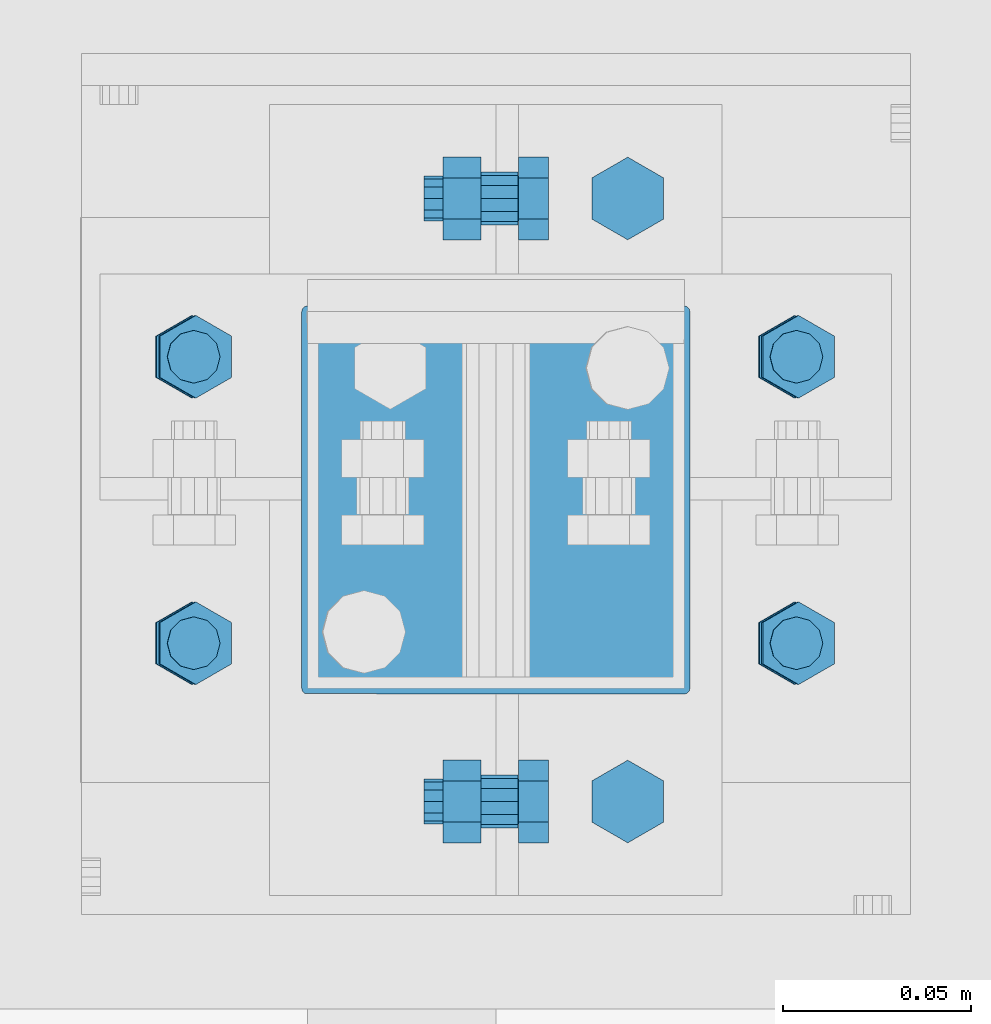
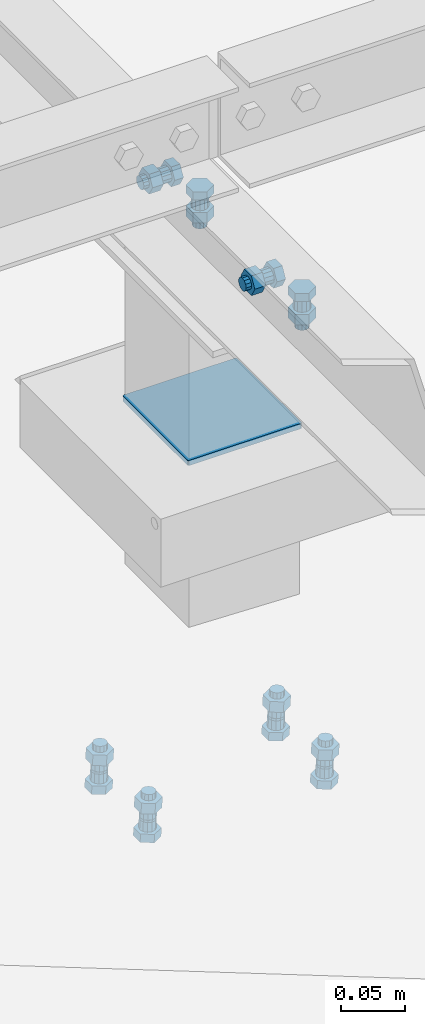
# One storey, part 334 of 3134: 5 mechanical fasteners, 4 elements without a shape of their own.
"""IFC2X3 building model written with IfcOpenShell, lengths in millimetres."""

from ifc_helpers import new_model, si_unit, frame, origin_with_axes, place, context, subcontext, project, spatial, faceted_brep, source, transform, mapped, material, type_object, element, aggregate, save


model = new_model("IFC2X3")

# Units and contexts
model_context = context("Model", 3, precision=1e-05, world=origin_with_axes())
body_context = subcontext(model_context, "Body", "Model", "MODEL_VIEW")
ifc_project = project(units=[si_unit("LENGTHUNIT", "METRE", prefix="MILLI"), si_unit("AREAUNIT", "SQUARE_METRE"), si_unit("VOLUMEUNIT", "CUBIC_METRE"), si_unit("MASSUNIT", "GRAM", prefix="KILO"), si_unit("TIMEUNIT", "SECOND"), si_unit("PLANEANGLEUNIT", "RADIAN"), si_unit("SOLIDANGLEUNIT", "STERADIAN"), si_unit("THERMODYNAMICTEMPERATUREUNIT", "DEGREE_CELSIUS"), si_unit("LUMINOUSINTENSITYUNIT", "LUMEN")], contexts=[model_context])

# Site, building, storey
site_placement = place(None, origin_with_axes())
site = spatial("IfcSite", under=ifc_project, at=site_placement, CompositionType="ELEMENT")
building_placement = place(site_placement, origin_with_axes())
building = spatial("IfcBuilding", under=site, at=building_placement, Name="Undefined", CompositionType="ELEMENT")
storey_placement = place(building_placement, origin_with_axes())
storey = spatial("IfcBuildingStorey", under=building, at=storey_placement, Name="Undefined", CompositionType="ELEMENT", Elevation=0.0)

# Assembly, mechanical fastener
assembly_1_placement = place(storey_placement, origin_with_axes())
assembly_1 = element("IfcElementAssembly", 1, at=assembly_1_placement, inside=storey, AssemblyPlace="NOTDEFINED", PredefinedType="RIGID_FRAME")
ifc_material_1 = material(Name="8.8")
mechanical_fastener_type = type_object("IfcMechanicalFastenerType", Name="Bolt assembly")
shared_shape_1 = source(origin_with_axes(), body_context, "Body", "Brep", [
    faceted_brep([(10.9696551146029, -14.0, 0.0), (5.48482755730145, -14.0, 9.5), (-5.48482755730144, -14.0, 9.5), (-10.9696551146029, -14.0, 1.34339530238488e-15), (-5.48482755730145, -14.0, -9.5), (5.48482755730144, -14.0, -9.50000000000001), (5.48482755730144, -6.0, -9.50000000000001), (-5.48482755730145, -6.0, -9.5), (-10.9696551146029, -6.0, 1.34339530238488e-15), (-5.48482755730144, -6.0, 9.5), (5.48482755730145, -6.0, 9.5), (10.9696551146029, -6.0, 0.0), (6.0, -6.0, 0.0), (5.19615242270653, -6.0, 3.00000000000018), (2.99999999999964, -6.0, 5.19615242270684), (-6.21801588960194e-13, -6.0, 6.0), (-3.00000000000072, -6.0, 5.19615242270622), (-5.19615242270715, -6.0, 2.9999999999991), (-6.0, -6.0, -1.24360317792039e-12), (-5.19615242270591, -6.0, -3.00000000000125), (-2.99999999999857, -6.0, -5.19615242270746), (1.85874342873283e-12, -6.0, -6.0), (3.00000000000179, -6.0, -5.1961524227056), (5.19615242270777, -6.0, -2.99999999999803), (5.19615242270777, 24.0, -2.99999999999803), (3.00000000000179, 24.0, -5.1961524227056), (1.85874342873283e-12, 24.0, -6.0), (-2.99999999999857, 24.0, -5.19615242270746), (-5.19615242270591, 24.0, -3.00000000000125), (-6.0, 24.0, -1.24360317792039e-12), (-5.19615242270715, 24.0, 2.9999999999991), (-3.00000000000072, 24.0, 5.19615242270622), (-6.21801588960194e-13, 24.0, 6.0), (2.99999999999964, 24.0, 5.19615242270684), (5.19615242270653, 24.0, 3.00000000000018), (6.0, 24.0, 0.0), (10.9696551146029, 6.00000000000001, 0.0), (5.48482755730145, 6.00000000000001, 9.5), (-5.48482755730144, 6.00000000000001, 9.5), (-10.9696551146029, 6.00000000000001, 1.34339530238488e-15), (-5.48482755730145, 6.00000000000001, -9.5), (5.48482755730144, 6.00000000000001, -9.50000000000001), (5.48482755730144, 16.0, -9.50000000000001), (-5.48482755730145, 16.0, -9.5), (-10.9696551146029, 16.0, 1.34339530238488e-15), (-5.48482755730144, 16.0, 9.5), (5.48482755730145, 16.0, 9.5), (10.9696551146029, 16.0, 0.0)], [[[0, 1, 2, 3, 4, 5]], [[6, 7, 8, 9, 10, 11]], [[0, 11, 10, 1]], [[1, 10, 9, 2]], [[2, 9, 8, 3]], [[3, 8, 7, 4]], [[4, 7, 6, 5]], [[5, 6, 11, 0]], [[12, 13, 14, 15, 16, 17, 18, 19, 20, 21, 22, 23]], [[24, 25, 26, 27, 28, 29, 30, 31, 32, 33, 34, 35]], [[12, 35, 34, 13]], [[13, 34, 33, 14]], [[14, 33, 32, 15]], [[15, 32, 31, 16]], [[16, 31, 30, 17]], [[17, 30, 29, 18]], [[18, 29, 28, 19]], [[19, 28, 27, 20]], [[20, 27, 26, 21]], [[21, 26, 25, 22]], [[22, 25, 24, 23]], [[23, 24, 35, 12]], [[36, 37, 38, 39, 40, 41]], [[42, 43, 44, 45, 46, 47]], [[36, 47, 46, 37]], [[37, 46, 45, 38]], [[38, 45, 44, 39]], [[39, 44, 43, 40]], [[40, 43, 42, 41]], [[41, 42, 47, 36]]]),
    faceted_brep([(7.0, -5.9, 0.0), (6.06217782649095, -5.9, 3.50000000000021), (3.49999999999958, -5.9, 6.06217782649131), (-7.25435187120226e-13, -5.9, 7.0), (-3.50000000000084, -5.9, 6.06217782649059), (-6.06217782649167, -5.9, 3.49999999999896), (-7.0, -5.9, -1.45087037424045e-12), (-6.06217782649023, -5.9, -3.50000000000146), (-3.49999999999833, -5.9, -6.06217782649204), (2.1685340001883e-12, -5.9, -7.0), (3.50000000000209, -5.9, -6.06217782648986), (6.0621778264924, -5.9, -3.4999999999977), (6.0621778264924, 0.0999999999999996, -3.4999999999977), (3.50000000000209, 0.0999999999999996, -6.06217782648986), (2.1685340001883e-12, 0.0999999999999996, -7.0), (-3.49999999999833, 0.0999999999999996, -6.06217782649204), (-6.06217782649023, 0.0999999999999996, -3.50000000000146), (-7.0, 0.0999999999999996, -1.45087037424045e-12), (-6.06217782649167, 0.0999999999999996, 3.49999999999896), (-3.50000000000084, 0.0999999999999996, 6.06217782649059), (-7.25435187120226e-13, 0.0999999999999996, 7.0), (3.49999999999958, 0.0999999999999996, 6.06217782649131), (6.06217782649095, 0.0999999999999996, 3.50000000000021), (7.0, 0.0999999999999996, 0.0), (7.0, -0.1, 0.0), (6.06217782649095, -0.1, 3.50000000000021), (3.49999999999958, -0.1, 6.06217782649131), (-7.25435187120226e-13, -0.1, 7.0), (-3.50000000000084, -0.1, 6.06217782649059), (-6.06217782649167, -0.1, 3.49999999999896), (-7.0, -0.1, -1.45087037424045e-12), (-6.06217782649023, -0.1, -3.50000000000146), (-3.49999999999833, -0.1, -6.06217782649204), (2.1685340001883e-12, -0.1, -7.0), (3.50000000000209, -0.1, -6.06217782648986), (6.0621778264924, -0.1, -3.4999999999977), (6.0621778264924, 6.00000000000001, -3.4999999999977), (3.50000000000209, 6.00000000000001, -6.06217782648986), (2.1685340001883e-12, 6.00000000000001, -7.0), (-3.49999999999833, 6.00000000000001, -6.06217782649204), (-6.06217782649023, 6.00000000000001, -3.50000000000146), (-7.0, 6.00000000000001, -1.45087037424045e-12), (-6.06217782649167, 6.00000000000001, 3.49999999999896), (-3.50000000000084, 6.00000000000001, 6.06217782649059), (-7.25435187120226e-13, 6.00000000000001, 7.0), (3.49999999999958, 6.00000000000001, 6.06217782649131), (6.06217782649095, 6.00000000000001, 3.50000000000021), (7.0, 6.00000000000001, 0.0)], [[[0, 1, 2, 3, 4, 5, 6, 7, 8, 9, 10, 11]], [[12, 13, 14, 15, 16, 17, 18, 19, 20, 21, 22, 23]], [[0, 23, 22, 1]], [[1, 22, 21, 2]], [[2, 21, 20, 3]], [[3, 20, 19, 4]], [[4, 19, 18, 5]], [[5, 18, 17, 6]], [[6, 17, 16, 7]], [[7, 16, 15, 8]], [[8, 15, 14, 9]], [[9, 14, 13, 10]], [[10, 13, 12, 11]], [[11, 12, 23, 0]], [[24, 25, 26, 27, 28, 29, 30, 31, 32, 33, 34, 35]], [[36, 37, 38, 39, 40, 41, 42, 43, 44, 45, 46, 47]], [[24, 47, 46, 25]], [[25, 46, 45, 26]], [[26, 45, 44, 27]], [[27, 44, 43, 28]], [[28, 43, 42, 29]], [[29, 42, 41, 30]], [[30, 41, 40, 31]], [[31, 40, 39, 32]], [[32, 39, 38, 33]], [[33, 38, 37, 34]], [[34, 37, 36, 35]], [[35, 36, 47, 24]]]),
])
mechanical_fastener_1_placement = place(assembly_1_placement, frame((73110.0, 12290.0, 5750.0), z_axis=(-1.0, 0.0, 0.0), x_axis=(0.0, 1.0, 0.0)))
mechanical_fastener_1 = element("IfcMechanicalFastener", 2, at=mechanical_fastener_1_placement, type_object=mechanical_fastener_type, material=ifc_material_1, Name="Bolt assembly", NominalDiameter=12.0, NominalLength=30.0, context=body_context, shape_type="MappedRepresentation", body=[
    mapped(shared_shape_1, transform((0.0, 0.0, 0.0))),
    mapped(shared_shape_1, transform((160.0, 0.0, 0.0))),
])

assembly_2_placement = place(storey_placement, origin_with_axes())
assembly_2 = element("IfcElementAssembly", 3, at=assembly_2_placement, inside=storey, AssemblyPlace="NOTDEFINED", PredefinedType="RIGID_FRAME")
shared_shape_2 = source(origin_with_axes(), body_context, "Body", "Brep", [
    faceted_brep([(10.9696551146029, -14.0, 0.0), (5.48482755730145, -14.0, 9.5), (-5.48482755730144, -14.0, 9.5), (-10.9696551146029, -14.0, 1.34339530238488e-15), (-5.48482755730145, -14.0, -9.5), (5.48482755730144, -14.0, -9.50000000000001), (5.48482755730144, -6.0, -9.50000000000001), (-5.48482755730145, -6.0, -9.5), (-10.9696551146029, -6.0, 1.34339530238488e-15), (-5.48482755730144, -6.0, 9.5), (5.48482755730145, -6.0, 9.5), (10.9696551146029, -6.0, 0.0), (6.0, -6.0, 0.0), (5.19615242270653, -6.0, 3.00000000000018), (2.99999999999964, -6.0, 5.19615242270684), (-6.21801588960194e-13, -6.0, 6.0), (-3.00000000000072, -6.0, 5.19615242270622), (-5.19615242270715, -6.0, 2.9999999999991), (-6.0, -6.0, -1.24360317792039e-12), (-5.19615242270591, -6.0, -3.00000000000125), (-2.99999999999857, -6.0, -5.19615242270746), (1.85874342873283e-12, -6.0, -6.0), (3.00000000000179, -6.0, -5.1961524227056), (5.19615242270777, -6.0, -2.99999999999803), (5.19615242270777, 19.0, -2.99999999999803), (3.00000000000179, 19.0, -5.1961524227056), (1.85874342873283e-12, 19.0, -6.0), (-2.99999999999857, 19.0, -5.19615242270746), (-5.19615242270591, 19.0, -3.00000000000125), (-6.0, 19.0, -1.24360317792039e-12), (-5.19615242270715, 19.0, 2.9999999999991), (-3.00000000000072, 19.0, 5.19615242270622), (-6.21801588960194e-13, 19.0, 6.0), (2.99999999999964, 19.0, 5.19615242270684), (5.19615242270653, 19.0, 3.00000000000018), (6.0, 19.0, 0.0), (10.9696551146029, 4.00000000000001, 0.0), (5.48482755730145, 4.00000000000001, 9.5), (-5.48482755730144, 4.00000000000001, 9.5), (-10.9696551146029, 4.00000000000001, 1.34339530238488e-15), (-5.48482755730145, 4.00000000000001, -9.5), (5.48482755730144, 4.00000000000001, -9.50000000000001), (5.48482755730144, 14.0, -9.50000000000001), (-5.48482755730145, 14.0, -9.5), (-10.9696551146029, 14.0, 1.34339530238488e-15), (-5.48482755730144, 14.0, 9.5), (5.48482755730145, 14.0, 9.5), (10.9696551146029, 14.0, 0.0)], [[[0, 1, 2, 3, 4, 5]], [[6, 7, 8, 9, 10, 11]], [[0, 11, 10, 1]], [[1, 10, 9, 2]], [[2, 9, 8, 3]], [[3, 8, 7, 4]], [[4, 7, 6, 5]], [[5, 6, 11, 0]], [[12, 13, 14, 15, 16, 17, 18, 19, 20, 21, 22, 23]], [[24, 25, 26, 27, 28, 29, 30, 31, 32, 33, 34, 35]], [[12, 35, 34, 13]], [[13, 34, 33, 14]], [[14, 33, 32, 15]], [[15, 32, 31, 16]], [[16, 31, 30, 17]], [[17, 30, 29, 18]], [[18, 29, 28, 19]], [[19, 28, 27, 20]], [[20, 27, 26, 21]], [[21, 26, 25, 22]], [[22, 25, 24, 23]], [[23, 24, 35, 12]], [[36, 37, 38, 39, 40, 41]], [[42, 43, 44, 45, 46, 47]], [[36, 47, 46, 37]], [[37, 46, 45, 38]], [[38, 45, 44, 39]], [[39, 44, 43, 40]], [[40, 43, 42, 41]], [[41, 42, 47, 36]]]),
    faceted_brep([(7.0, -0.1, 0.0), (6.06217782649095, -0.1, 3.50000000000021), (3.49999999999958, -0.1, 6.06217782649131), (-7.25435187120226e-13, -0.1, 7.0), (-3.50000000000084, -0.1, 6.06217782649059), (-6.06217782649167, -0.1, 3.49999999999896), (-7.0, -0.1, -1.45087037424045e-12), (-6.06217782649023, -0.1, -3.50000000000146), (-3.49999999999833, -0.1, -6.06217782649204), (2.1685340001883e-12, -0.1, -7.0), (3.50000000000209, -0.1, -6.06217782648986), (6.0621778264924, -0.1, -3.4999999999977), (6.0621778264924, 4.00000000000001, -3.4999999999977), (3.50000000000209, 4.00000000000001, -6.06217782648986), (2.1685340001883e-12, 4.00000000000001, -7.0), (-3.49999999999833, 4.00000000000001, -6.06217782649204), (-6.06217782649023, 4.00000000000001, -3.50000000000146), (-7.0, 4.00000000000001, -1.45087037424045e-12), (-6.06217782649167, 4.00000000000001, 3.49999999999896), (-3.50000000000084, 4.00000000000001, 6.06217782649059), (-7.25435187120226e-13, 4.00000000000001, 7.0), (3.49999999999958, 4.00000000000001, 6.06217782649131), (6.06217782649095, 4.00000000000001, 3.50000000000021), (7.0, 4.00000000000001, 0.0), (7.0, -5.9, 0.0), (6.06217782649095, -5.9, 3.50000000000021), (3.49999999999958, -5.9, 6.06217782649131), (-7.25435187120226e-13, -5.9, 7.0), (-3.50000000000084, -5.9, 6.06217782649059), (-6.06217782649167, -5.9, 3.49999999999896), (-7.0, -5.9, -1.45087037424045e-12), (-6.06217782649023, -5.9, -3.50000000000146), (-3.49999999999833, -5.9, -6.06217782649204), (2.1685340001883e-12, -5.9, -7.0), (3.50000000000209, -5.9, -6.06217782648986), (6.0621778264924, -5.9, -3.4999999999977), (6.0621778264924, 0.0999999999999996, -3.4999999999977), (3.50000000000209, 0.0999999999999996, -6.06217782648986), (2.1685340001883e-12, 0.0999999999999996, -7.0), (-3.49999999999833, 0.0999999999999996, -6.06217782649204), (-6.06217782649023, 0.0999999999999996, -3.50000000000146), (-7.0, 0.0999999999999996, -1.45087037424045e-12), (-6.06217782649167, 0.0999999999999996, 3.49999999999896), (-3.50000000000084, 0.0999999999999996, 6.06217782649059), (-7.25435187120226e-13, 0.0999999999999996, 7.0), (3.49999999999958, 0.0999999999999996, 6.06217782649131), (6.06217782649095, 0.0999999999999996, 3.50000000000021), (7.0, 0.0999999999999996, 0.0)], [[[0, 1, 2, 3, 4, 5, 6, 7, 8, 9, 10, 11]], [[12, 13, 14, 15, 16, 17, 18, 19, 20, 21, 22, 23]], [[0, 23, 22, 1]], [[1, 22, 21, 2]], [[2, 21, 20, 3]], [[3, 20, 19, 4]], [[4, 19, 18, 5]], [[5, 18, 17, 6]], [[6, 17, 16, 7]], [[7, 16, 15, 8]], [[8, 15, 14, 9]], [[9, 14, 13, 10]], [[10, 13, 12, 11]], [[11, 12, 23, 0]], [[24, 25, 26, 27, 28, 29, 30, 31, 32, 33, 34, 35]], [[36, 37, 38, 39, 40, 41, 42, 43, 44, 45, 46, 47]], [[24, 47, 46, 25]], [[25, 46, 45, 26]], [[26, 45, 44, 27]], [[27, 44, 43, 28]], [[28, 43, 42, 29]], [[29, 42, 41, 30]], [[30, 41, 40, 31]], [[31, 40, 39, 32]], [[32, 39, 38, 33]], [[33, 38, 37, 34]], [[34, 37, 36, 35]], [[35, 36, 47, 24]]]),
])
mechanical_fastener_2_placement = place(assembly_2_placement, frame((73075.0, 12290.0, 5785.0), z_axis=(0.0, 0.0, 1.0), x_axis=(0.0, 1.0, 0.0)))
mechanical_fastener_2 = element("IfcMechanicalFastener", 4, at=mechanical_fastener_2_placement, type_object=mechanical_fastener_type, material=ifc_material_1, Name="Bolt assembly", NominalDiameter=12.0, NominalLength=25.0, context=body_context, shape_type="MappedRepresentation", body=[
    mapped(shared_shape_2, transform((0.0, 0.0, 0.0))),
    mapped(shared_shape_2, transform((160.0, 0.0, 0.0))),
])
aggregate(assembly_2, [mechanical_fastener_2])

assembly_3_placement = place(storey_placement, origin_with_axes())
assembly_3 = element("IfcElementAssembly", 5, at=assembly_3_placement, inside=storey, AssemblyPlace="NOTDEFINED", PredefinedType="RIGID_FRAME")
shared_shape_3 = source(origin_with_axes(), body_context, "Body", "Brep", [
    faceted_brep([(7.0, 13.0000253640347, 0.0), (6.06217782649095, 13.0000253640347, 3.50000000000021), (3.49999999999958, 13.0000253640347, 6.06217782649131), (-7.25435187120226e-13, 13.0000253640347, 7.0), (-3.50000000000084, 13.0000253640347, 6.06217782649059), (-6.06217782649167, 13.0000253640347, 3.49999999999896), (-7.0, 13.0000253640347, -1.45087037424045e-12), (-6.06217782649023, 13.0000253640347, -3.50000000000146), (-3.49999999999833, 13.0000253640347, -6.06217782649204), (2.1685340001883e-12, 13.0000253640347, -7.0), (3.50000000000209, 13.0000253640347, -6.06217782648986), (6.0621778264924, 13.0000253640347, -3.4999999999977), (6.0621778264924, 15.0999999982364, -3.4999999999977), (3.50000000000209, 15.0999999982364, -6.06217782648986), (2.1685340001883e-12, 15.0999999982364, -7.0), (-3.49999999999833, 15.0999999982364, -6.06217782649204), (-6.06217782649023, 15.0999999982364, -3.50000000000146), (-7.0, 15.0999999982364, -1.45087037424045e-12), (-6.06217782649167, 15.0999999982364, 3.49999999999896), (-3.50000000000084, 15.0999999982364, 6.06217782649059), (-7.25435187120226e-13, 15.0999999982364, 7.0), (3.49999999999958, 15.0999999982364, 6.06217782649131), (6.06217782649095, 15.0999999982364, 3.50000000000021), (7.0, 15.0999999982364, 0.0)], [[[0, 1, 2, 3, 4, 5, 6, 7, 8, 9, 10, 11]], [[12, 13, 14, 15, 16, 17, 18, 19, 20, 21, 22, 23]], [[0, 23, 22, 1]], [[1, 22, 21, 2]], [[2, 21, 20, 3]], [[3, 20, 19, 4]], [[4, 19, 18, 5]], [[5, 18, 17, 6]], [[6, 17, 16, 7]], [[7, 16, 15, 8]], [[8, 15, 14, 9]], [[9, 14, 13, 10]], [[10, 13, 12, 11]], [[11, 12, 23, 0]]]),
])
mechanical_fastener_3_placement = place(assembly_3_placement, frame((73074.3451187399, 12408.0, 5255.7372055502), z_axis=(-0.99951962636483, 0.0, 0.0309922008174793), x_axis=(0.0, -1.0, 0.0)))
mechanical_fastener_3 = element("IfcMechanicalFastener", 6, at=mechanical_fastener_3_placement, type_object=mechanical_fastener_type, material=ifc_material_1, Name="Bolt assembly", NominalDiameter=12.0, NominalLength=2.0, context=body_context, shape_type="MappedRepresentation", body=[
    mapped(shared_shape_3, transform((0.0, -5.32963895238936e-10, -79.9999999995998))),
    mapped(shared_shape_3, transform((76.0, -5.32963895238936e-10, -79.9999999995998))),
    mapped(shared_shape_3, transform((0.0, 5.3114490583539e-10, 79.9999999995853))),
    mapped(shared_shape_3, transform((76.0, 5.3114490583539e-10, 79.9999999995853))),
])
aggregate(assembly_3, [mechanical_fastener_3])

# Mechanical fastener
ifc_material_2 = material(Name="6.8")
shared_shape_4 = source(origin_with_axes(), body_context, "Body", "Brep", [
    faceted_brep([(51.5, 1.36424205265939e-12, 50.0), (51.3858192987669, 1.36424205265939e-12, 50.5740251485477), (51.0606601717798, 1.36424205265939e-12, 51.0606601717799), (50.5740251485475, 1.36424205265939e-12, 51.385819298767), (-50.0000000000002, 1.36424205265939e-12, 51.5), (-50.7500000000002, 1.36424205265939e-12, 51.2990381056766), (-51.2990381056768, 1.36424205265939e-12, 50.7499999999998), (-51.5, 1.36424205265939e-12, 49.9999999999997), (-51.5, 1.36424205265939e-12, -50.0000000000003), (-51.2990381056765, 1.36424205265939e-12, -50.7500000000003), (-50.7499999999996, 1.36424205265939e-12, -51.2990381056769), (-49.9999999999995, 1.36424205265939e-12, -51.5), (50.0000000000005, 1.36424205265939e-12, -51.5), (50.7500000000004, 1.36424205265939e-12, -51.2990381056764), (51.2990381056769, 1.36424205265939e-12, -50.7499999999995), (51.5, 1.36424205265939e-12, -49.9999999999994), (51.5, 5.10000000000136, -49.9999999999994), (51.2990381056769, 5.10000000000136, -50.7499999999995), (50.7500000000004, 5.10000000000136, -51.2990381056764), (50.0000000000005, 5.10000000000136, -51.5), (-49.9999999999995, 5.10000000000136, -51.5), (-50.7499999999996, 5.10000000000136, -51.2990381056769), (-51.2990381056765, 5.10000000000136, -50.7500000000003), (-51.5, 5.10000000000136, -50.0000000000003), (-51.5, 5.10000000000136, 49.9999999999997), (-51.2990381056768, 5.10000000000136, 50.7499999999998), (-50.7500000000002, 5.10000000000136, 51.2990381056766), (-50.0000000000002, 5.10000000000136, 51.5), (50.5740251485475, 5.10000000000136, 51.385819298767), (51.0606601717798, 5.10000000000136, 51.0606601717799), (51.3858192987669, 5.10000000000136, 50.5740251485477), (51.5, 5.10000000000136, 50.0)], [[[0, 1, 2, 3, 4, 5, 6, 7, 8, 9, 10, 11, 12, 13, 14, 15]], [[16, 17, 18, 19, 20, 21, 22, 23, 24, 25, 26, 27, 28, 29, 30, 31]], [[0, 31, 30, 1]], [[1, 30, 29, 2]], [[2, 29, 28, 3]], [[3, 28, 27, 4]], [[4, 27, 26, 5]], [[5, 26, 25, 6]], [[6, 25, 24, 7]], [[7, 24, 23, 8]], [[8, 23, 22, 9]], [[9, 22, 21, 10]], [[10, 21, 20, 11]], [[11, 20, 19, 12]], [[12, 19, 18, 13]], [[13, 18, 17, 14]], [[14, 17, 16, 15]], [[15, 16, 31, 0]]]),
])
mechanical_fastener_4_placement = place(assembly_1_placement, frame((73075.0, 12370.0, 5610.44), z_axis=(0.0, -1.0, 0.0), x_axis=(-1.0, 0.0, 0.0)))
mechanical_fastener_4 = element("IfcMechanicalFastener", 7, at=mechanical_fastener_4_placement, type_object=mechanical_fastener_type, material=ifc_material_2, Name="Bolt assembly", NominalDiameter=10.0, NominalLength=5.0, context=body_context, shape_type="MappedRepresentation", body=[
    mapped(shared_shape_4, transform((0.0, 0.0, 0.0))),
])

aggregate(assembly_1, [mechanical_fastener_1, mechanical_fastener_4])

# Assembly, mechanical fastener
assembly_4_placement = place(storey_placement, origin_with_axes())
assembly_4 = element("IfcElementAssembly", 8, at=assembly_4_placement, inside=storey, Name="300", AssemblyPlace="NOTDEFINED", PredefinedType="RIGID_FRAME")
shared_shape_5 = source(origin_with_axes(), body_context, "Body", "Brep", [
    faceted_brep([(10.9696551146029, -10.2005277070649, 0.0), (5.48482755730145, -10.2005277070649, 9.5), (-5.48482755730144, -10.2005277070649, 9.5), (-10.9696551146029, -10.2005277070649, 1.34339530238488e-15), (-5.48482755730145, -10.2005277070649, -9.5), (5.48482755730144, -10.2005277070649, -9.50000000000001), (5.48482755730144, -2.20052770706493, -9.50000000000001), (-5.48482755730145, -2.20052770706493, -9.5), (-10.9696551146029, -2.20052770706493, 1.34339530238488e-15), (-5.48482755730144, -2.20052770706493, 9.5), (5.48482755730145, -2.20052770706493, 9.5), (10.9696551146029, -2.20052770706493, 0.0), (6.0, -2.20052770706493, 0.0), (5.19615242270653, -2.20052770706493, 3.00000000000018), (2.99999999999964, -2.20052770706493, 5.19615242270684), (-6.21801588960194e-13, -2.20052770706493, 6.0), (-3.00000000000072, -2.20052770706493, 5.19615242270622), (-5.19615242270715, -2.20052770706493, 2.9999999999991), (-6.0, -2.20052770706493, -1.24360317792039e-12), (-5.19615242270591, -2.20052770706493, -3.00000000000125), (-2.99999999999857, -2.20052770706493, -5.19615242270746), (1.85874342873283e-12, -2.20052770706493, -6.0), (3.00000000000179, -2.20052770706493, -5.1961524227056), (5.19615242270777, -2.20052770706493, -2.99999999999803), (5.19615242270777, 32.7994722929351, -2.99999999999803), (3.00000000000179, 32.7994722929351, -5.1961524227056), (1.85874342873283e-12, 32.7994722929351, -6.0), (-2.99999999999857, 32.7994722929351, -5.19615242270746), (-5.19615242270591, 32.7994722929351, -3.00000000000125), (-6.0, 32.7994722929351, -1.24360317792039e-12), (-5.19615242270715, 32.7994722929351, 2.9999999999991), (-3.00000000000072, 32.7994722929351, 5.19615242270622), (-6.21801588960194e-13, 32.7994722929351, 6.0), (2.99999999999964, 32.7994722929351, 5.19615242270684), (5.19615242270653, 32.7994722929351, 3.00000000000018), (6.0, 32.7994722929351, 0.0), (10.9696551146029, 17.0008987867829, 0.0), (5.48482755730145, 17.0008987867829, 9.5), (-5.48482755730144, 17.0008987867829, 9.5), (-10.9696551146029, 17.0008987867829, 1.34339530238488e-15), (-5.48482755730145, 17.0008987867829, -9.5), (5.48482755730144, 17.0008987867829, -9.50000000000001), (5.48482755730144, 27.0008987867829, -9.50000000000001), (-5.48482755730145, 27.0008987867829, -9.5), (-10.9696551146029, 27.0008987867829, 1.34339530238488e-15), (-5.48482755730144, 27.0008987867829, 9.5), (5.48482755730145, 27.0008987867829, 9.5), (10.9696551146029, 27.0008987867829, 0.0)], [[[0, 1, 2, 3, 4, 5]], [[6, 7, 8, 9, 10, 11]], [[0, 11, 10, 1]], [[1, 10, 9, 2]], [[2, 9, 8, 3]], [[3, 8, 7, 4]], [[4, 7, 6, 5]], [[5, 6, 11, 0]], [[12, 13, 14, 15, 16, 17, 18, 19, 20, 21, 22, 23]], [[24, 25, 26, 27, 28, 29, 30, 31, 32, 33, 34, 35]], [[12, 35, 34, 13]], [[13, 34, 33, 14]], [[14, 33, 32, 15]], [[15, 32, 31, 16]], [[16, 31, 30, 17]], [[17, 30, 29, 18]], [[18, 29, 28, 19]], [[19, 28, 27, 20]], [[20, 27, 26, 21]], [[21, 26, 25, 22]], [[22, 25, 24, 23]], [[23, 24, 35, 12]], [[36, 37, 38, 39, 40, 41]], [[42, 43, 44, 45, 46, 47]], [[36, 47, 46, 37]], [[37, 46, 45, 38]], [[38, 45, 44, 39]], [[39, 44, 43, 40]], [[40, 43, 42, 41]], [[41, 42, 47, 36]]]),
    faceted_brep([(7.0, 8.90089878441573, 0.0), (6.06217782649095, 8.90089878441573, 3.50000000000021), (3.49999999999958, 8.90089878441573, 6.06217782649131), (-7.25435187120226e-13, 8.90089878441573, 7.0), (-3.50000000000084, 8.90089878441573, 6.06217782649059), (-6.06217782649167, 8.90089878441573, 3.49999999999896), (-7.0, 8.90089878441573, -1.45087037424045e-12), (-6.06217782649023, 8.90089878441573, -3.50000000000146), (-3.49999999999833, 8.90089878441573, -6.06217782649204), (2.1685340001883e-12, 8.90089878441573, -7.0), (3.50000000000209, 8.90089878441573, -6.06217782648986), (6.0621778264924, 8.90089878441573, -3.4999999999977), (6.0621778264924, 17.0008987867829, -3.4999999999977), (3.50000000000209, 17.0008987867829, -6.06217782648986), (2.1685340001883e-12, 17.0008987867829, -7.0), (-3.49999999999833, 17.0008987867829, -6.06217782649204), (-6.06217782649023, 17.0008987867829, -3.50000000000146), (-7.0, 17.0008987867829, -1.45087037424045e-12), (-6.06217782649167, 17.0008987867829, 3.49999999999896), (-3.50000000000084, 17.0008987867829, 6.06217782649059), (-7.25435187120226e-13, 17.0008987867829, 7.0), (3.49999999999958, 17.0008987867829, 6.06217782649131), (6.06217782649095, 17.0008987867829, 3.50000000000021), (7.0, 17.0008987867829, 0.0), (7.0, -2.10052770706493, 0.0), (6.06217782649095, -2.10052770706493, 3.50000000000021), (3.49999999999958, -2.10052770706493, 6.06217782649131), (-7.25435187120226e-13, -2.10052770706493, 7.0), (-3.50000000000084, -2.10052770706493, 6.06217782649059), (-6.06217782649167, -2.10052770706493, 3.49999999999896), (-7.0, -2.10052770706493, -1.45087037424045e-12), (-6.06217782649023, -2.10052770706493, -3.50000000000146), (-3.49999999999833, -2.10052770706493, -6.06217782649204), (2.1685340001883e-12, -2.10052770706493, -7.0), (3.50000000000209, -2.10052770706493, -6.06217782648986), (6.0621778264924, -2.10052770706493, -3.4999999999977), (6.0621778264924, 7.09947210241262, -3.4999999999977), (3.50000000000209, 7.09947210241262, -6.06217782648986), (2.1685340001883e-12, 7.09947210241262, -7.0), (-3.49999999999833, 7.09947210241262, -6.06217782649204), (-6.06217782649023, 7.09947210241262, -3.50000000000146), (-7.0, 7.09947210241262, -1.45087037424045e-12), (-6.06217782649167, 7.09947210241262, 3.49999999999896), (-3.50000000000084, 7.09947210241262, 6.06217782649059), (-7.25435187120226e-13, 7.09947210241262, 7.0), (3.49999999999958, 7.09947210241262, 6.06217782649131), (6.06217782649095, 7.09947210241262, 3.50000000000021), (7.0, 7.09947210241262, 0.0)], [[[0, 1, 2, 3, 4, 5, 6, 7, 8, 9, 10, 11]], [[12, 13, 14, 15, 16, 17, 18, 19, 20, 21, 22, 23]], [[0, 23, 22, 1]], [[1, 22, 21, 2]], [[2, 21, 20, 3]], [[3, 20, 19, 4]], [[4, 19, 18, 5]], [[5, 18, 17, 6]], [[6, 17, 16, 7]], [[7, 16, 15, 8]], [[8, 15, 14, 9]], [[9, 14, 13, 10]], [[10, 13, 12, 11]], [[11, 12, 23, 0]], [[24, 25, 26, 27, 28, 29, 30, 31, 32, 33, 34, 35]], [[36, 37, 38, 39, 40, 41, 42, 43, 44, 45, 46, 47]], [[24, 47, 46, 25]], [[25, 46, 45, 26]], [[26, 45, 44, 27]], [[27, 44, 43, 28]], [[28, 43, 42, 29]], [[29, 42, 41, 30]], [[30, 41, 40, 31]], [[31, 40, 39, 32]], [[32, 39, 38, 33]], [[33, 38, 37, 34]], [[34, 37, 36, 35]], [[35, 36, 47, 24]]]),
])
mechanical_fastener_5_placement = place(assembly_4_placement, frame((73074.5351187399, 12408.0, 5261.7372055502), z_axis=(-0.99951962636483, 0.0, 0.0309922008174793), x_axis=(0.0, -1.0, 0.0)))
mechanical_fastener_5 = element("IfcMechanicalFastener", 9, at=mechanical_fastener_5_placement, type_object=mechanical_fastener_type, material=ifc_material_1, Name="Bolt assembly", NominalDiameter=12.0, NominalLength=35.0, context=body_context, shape_type="MappedRepresentation", body=[
    mapped(shared_shape_5, transform((0.0, -5.32963895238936e-10, -79.9999999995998))),
    mapped(shared_shape_5, transform((76.0, -5.32963895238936e-10, -79.9999999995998))),
    mapped(shared_shape_5, transform((0.0, 5.3114490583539e-10, 79.9999999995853))),
    mapped(shared_shape_5, transform((76.0, 5.3114490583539e-10, 79.9999999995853))),
])
aggregate(assembly_4, [mechanical_fastener_5])

save(model, "model.ifc")
